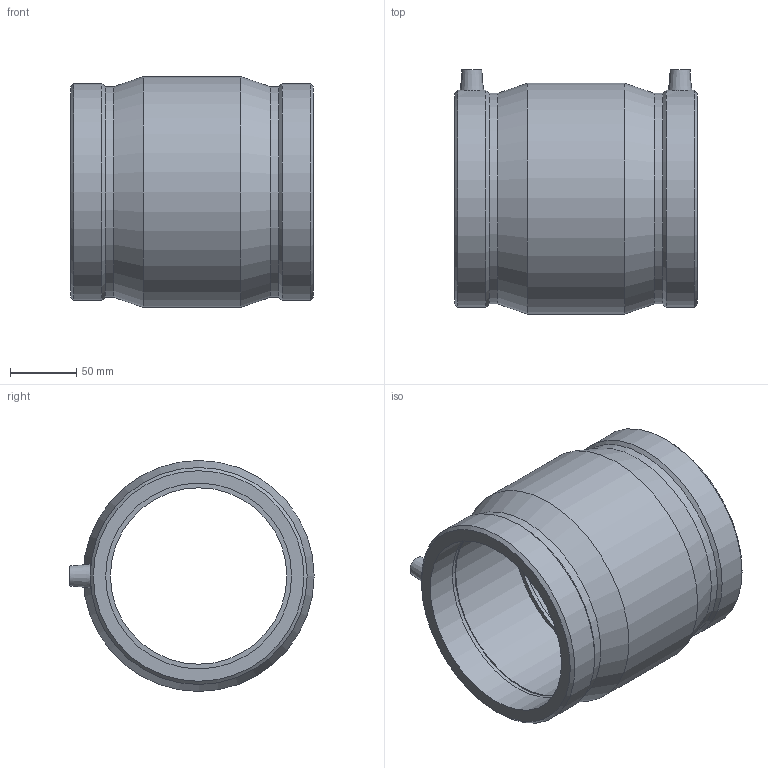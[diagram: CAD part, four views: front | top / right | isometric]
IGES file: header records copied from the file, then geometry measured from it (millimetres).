
Global section: file name: 490104140.ipt; native system: Autodesk Inventor 2015; preprocessor: unknown; author: KIM; date: 20190124.130045; units: millimetre
Bounding box: 183 x 184 x 174 mm (x, y, z)
Volume: 1248675.5 mm3; surface area: 195477.5 mm2
Topology: 1 solids, 1 shells, 36 faces, 80 edges, 54 vertices
Faces by surface type: plane 12, revolution 9, cone 8, cylinder 7
Full cylindrical faces by diameter (mm): 4 x2, 158.653 x2, 163.56 x2, 174 x1
